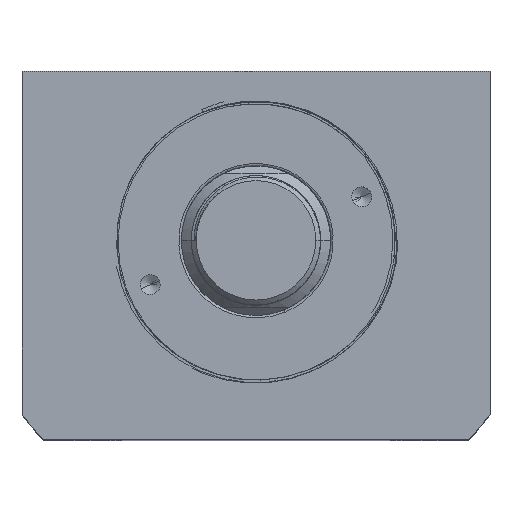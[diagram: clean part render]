
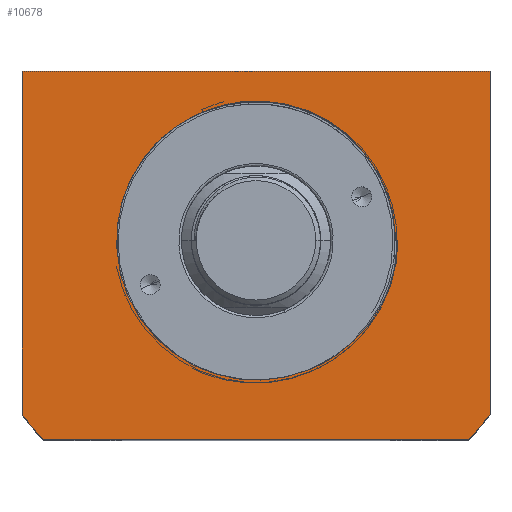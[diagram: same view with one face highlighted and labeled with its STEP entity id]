
A CAD part, top view. The second image highlights one B-rep face of the part: STEP entity #10678.
In plain terms, the highlighted planar face has unit normal (0, 0, 1).
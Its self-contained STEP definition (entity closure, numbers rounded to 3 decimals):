
#123 = ORIENTED_EDGE ( 'NONE', *, *, #14367, .T. ) ;
#443 = CARTESIAN_POINT ( 'NONE',  ( 47., -34.832, 40. ) ) ;
#484 = CARTESIAN_POINT ( 'NONE',  ( 0., 0., 40. ) ) ;
#558 = DIRECTION ( 'NONE',  ( -1., 0., 0. ) ) ;
#619 = CARTESIAN_POINT ( 'NONE',  ( 28., 0., 40. ) ) ;
#680 = CARTESIAN_POINT ( 'NONE',  ( 15.3, -23.593, 40. ) ) ;
#742 = CARTESIAN_POINT ( 'NONE',  ( 18.129, -21.529, 40. ) ) ;
#744 = DIRECTION ( 'NONE',  ( 1., 0., 0. ) ) ;
#1168 = EDGE_CURVE ( 'NONE', #2214, #8452, #2633, .T. ) ;
#1669 = CARTESIAN_POINT ( 'NONE',  ( 0., 0., 40. ) ) ;
#2170 = CARTESIAN_POINT ( 'NONE',  ( 0., 0., 40. ) ) ;
#2189 = CARTESIAN_POINT ( 'NONE',  ( 28.449, -1.419, 40. ) ) ;
#2214 = VERTEX_POINT ( 'NONE', #443 ) ;
#2246 = CARTESIAN_POINT ( 'NONE',  ( 13.459, -24.624, 40. ) ) ;
#2306 = CARTESIAN_POINT ( 'NONE',  ( 24.178, -14.712, 40. ) ) ;
#2556 = FACE_OUTER_BOUND ( 'NONE', #5647, .T. ) ;
#2633 = LINE ( 'NONE', #18129, #11845 ) ;
#2785 = CIRCLE ( 'NONE', #9926, 28. ) ;
#2998 = CARTESIAN_POINT ( 'NONE',  ( -47., -34.832, 40. ) ) ;
#3436 = DIRECTION ( 'NONE',  ( 0., 1., 0. ) ) ;
#3453 = EDGE_CURVE ( 'NONE', #13708, #2214, #10471, .T. ) ;
#3508 = DIRECTION ( 'NONE',  ( 1., 0., 0. ) ) ;
#3767 = CARTESIAN_POINT ( 'NONE',  ( 28.485, -0.71, 40. ) ) ;
#3918 = FACE_BOUND ( 'NONE', #14107, .T. ) ;
#3983 = AXIS2_PLACEMENT_3D ( 'NONE', #484, #16606, #7853 ) ;
#4018 = CARTESIAN_POINT ( 'NONE',  ( 47., 34., 40. ) ) ;
#4074 = CARTESIAN_POINT ( 'NONE',  ( 42.688, -40., 40. ) ) ;
#4600 = DIRECTION ( 'NONE',  ( 1., 0., 0. ) ) ;
#4727 = DIRECTION ( 'NONE',  ( 0., 0., 1. ) ) ;
#4944 = VERTEX_POINT ( 'NONE', #619 ) ;
#4969 = DIRECTION ( 'NONE',  ( 0., 0., -1. ) ) ;
#4989 = CARTESIAN_POINT ( 'NONE',  ( 42.688, -40., 40. ) ) ;
#5155 = VERTEX_POINT ( 'NONE', #15581 ) ;
#5179 = CARTESIAN_POINT ( 'NONE',  ( 28.233, -3.538, 40. ) ) ;
#5243 = CARTESIAN_POINT ( 'NONE',  ( 19.714, -20.129, 40. ) ) ;
#5326 = AXIS2_PLACEMENT_3D ( 'NONE', #1669, #14938, #4600 ) ;
#5629 = CARTESIAN_POINT ( 'NONE',  ( -47., -34.832, 40. ) ) ;
#5647 = EDGE_LOOP ( 'NONE', ( #123, #9781, #8503, #13466, #10049, #15390 ) ) ;
#5878 = VERTEX_POINT ( 'NONE', #2998 ) ;
#5944 = LINE ( 'NONE', #4989, #12377 ) ;
#6688 = CARTESIAN_POINT ( 'NONE',  ( 27.887, -5.628, 40. ) ) ;
#7853 = DIRECTION ( 'NONE',  ( 1., 0., 0. ) ) ;
#8224 = VECTOR ( 'NONE', #14249, 1000. ) ;
#8394 = EDGE_CURVE ( 'NONE', #12260, #16698, #10215, .T. ) ;
#8452 = VERTEX_POINT ( 'NONE', #4018 ) ;
#8503 = ORIENTED_EDGE ( 'NONE', *, *, #10458, .T. ) ;
#8694 = AXIS2_PLACEMENT_3D ( 'NONE', #12194, #4727, #3508 ) ;
#8774 = EDGE_CURVE ( 'NONE', #5155, #5878, #10881, .T. ) ;
#8807 = CARTESIAN_POINT ( 'NONE',  ( -42.688, -40., 40. ) ) ;
#9457 = CIRCLE ( 'NONE', #5326, 58.5 ) ;
#9522 = CARTESIAN_POINT ( 'NONE',  ( 26.163, -10.961, 40. ) ) ;
#9588 = CARTESIAN_POINT ( 'NONE',  ( 18.667, -21.077, 40. ) ) ;
#9648 = CARTESIAN_POINT ( 'NONE',  ( 20.224, -19.631, 40. ) ) ;
#9781 = ORIENTED_EDGE ( 'NONE', *, *, #8774, .T. ) ;
#9926 = AXIS2_PLACEMENT_3D ( 'NONE', #2170, #4969, #12319 ) ;
#9979 = CARTESIAN_POINT ( 'NONE',  ( 0., 0., 40. ) ) ;
#10049 = ORIENTED_EDGE ( 'NONE', *, *, #3453, .T. ) ;
#10215 = B_SPLINE_CURVE_WITH_KNOTS ( 'NONE', 3,
 ( #10951, #3767, #2189, #18347, #5179, #6688, #16994, #18220, #9522, #11139, #2306, #16862, #13923, #9648, #5243, #9588, #742, #12525, #680, #2246, #11080, #15523, #13986, #15463 ),
 .UNSPECIFIED., .F., .F.,
 ( 4, 2, 2, 2, 2, 2, 2, 2, 2, 2, 2, 4 ),
 ( 0., 0.002, 0.004, 0.009, 0.013, 0.017, 0.021, 0.023, 0.026, 0.03, 0.032, 0.034 ),
 .UNSPECIFIED. ) ;
#10458 = EDGE_CURVE ( 'NONE', #5878, #17194, #9457, .T. ) ;
#10471 = CIRCLE ( 'NONE', #8694, 58.5 ) ;
#10515 = EDGE_CURVE ( 'NONE', #16698, #4944, #2785, .T. ) ;
#10678 = ADVANCED_FACE ( 'NONE', ( #3918, #2556 ), #15133, .T. ) ;
#10881 = LINE ( 'NONE', #5629, #17505 ) ;
#10951 = CARTESIAN_POINT ( 'NONE',  ( 28.495, 0., 40. ) ) ;
#11016 = CARTESIAN_POINT ( 'NONE',  ( 10.232, -26.064, 40. ) ) ;
#11080 = CARTESIAN_POINT ( 'NONE',  ( 12.831, -24.945, 40. ) ) ;
#11139 = CARTESIAN_POINT ( 'NONE',  ( 24.898, -13.504, 40. ) ) ;
#11243 = LINE ( 'NONE', #12333, #16490 ) ;
#11845 = VECTOR ( 'NONE', #3436, 1000. ) ;
#11973 = ORIENTED_EDGE ( 'NONE', *, *, #14500, .F. ) ;
#12124 = LINE ( 'NONE', #9979, #8224 ) ;
#12194 = CARTESIAN_POINT ( 'NONE',  ( 0., 0., 40. ) ) ;
#12260 = VERTEX_POINT ( 'NONE', #12942 ) ;
#12319 = DIRECTION ( 'NONE',  ( 1., 0., 0. ) ) ;
#12333 = CARTESIAN_POINT ( 'NONE',  ( -47., 34., 40. ) ) ;
#12377 = VECTOR ( 'NONE', #744, 1000. ) ;
#12525 = CARTESIAN_POINT ( 'NONE',  ( 16.467, -22.819, 40. ) ) ;
#12900 = ORIENTED_EDGE ( 'NONE', *, *, #10515, .T. ) ;
#12942 = CARTESIAN_POINT ( 'NONE',  ( 28.495, 0., 40. ) ) ;
#13466 = ORIENTED_EDGE ( 'NONE', *, *, #13605, .T. ) ;
#13477 = ORIENTED_EDGE ( 'NONE', *, *, #8394, .T. ) ;
#13605 = EDGE_CURVE ( 'NONE', #17194, #13708, #5944, .T. ) ;
#13708 = VERTEX_POINT ( 'NONE', #4074 ) ;
#13923 = CARTESIAN_POINT ( 'NONE',  ( 21.684, -18.094, 40. ) ) ;
#13986 = CARTESIAN_POINT ( 'NONE',  ( 10.89, -25.816, 40. ) ) ;
#14107 = EDGE_LOOP ( 'NONE', ( #11973, #13477, #12900 ) ) ;
#14249 = DIRECTION ( 'NONE',  ( -1., 0., 0. ) ) ;
#14367 = EDGE_CURVE ( 'NONE', #8452, #5155, #11243, .T. ) ;
#14500 = EDGE_CURVE ( 'NONE', #12260, #4944, #12124, .T. ) ;
#14938 = DIRECTION ( 'NONE',  ( 0., 0., 1. ) ) ;
#15133 = PLANE ( 'NONE',  #3983 ) ;
#15390 = ORIENTED_EDGE ( 'NONE', *, *, #1168, .T. ) ;
#15463 = CARTESIAN_POINT ( 'NONE',  ( 10.232, -26.064, 40. ) ) ;
#15523 = CARTESIAN_POINT ( 'NONE',  ( 11.542, -25.544, 40. ) ) ;
#15581 = CARTESIAN_POINT ( 'NONE',  ( -47., 34., 40. ) ) ;
#16490 = VECTOR ( 'NONE', #558, 1000. ) ;
#16606 = DIRECTION ( 'NONE',  ( 0., 0., 1. ) ) ;
#16698 = VERTEX_POINT ( 'NONE', #11016 ) ;
#16862 = CARTESIAN_POINT ( 'NONE',  ( 22.571, -17.007, 40. ) ) ;
#16994 = CARTESIAN_POINT ( 'NONE',  ( 27.555, -6.99, 40. ) ) ;
#17194 = VERTEX_POINT ( 'NONE', #8807 ) ;
#17389 = DIRECTION ( 'NONE',  ( 0., -1., 0. ) ) ;
#17505 = VECTOR ( 'NONE', #17389, 1000. ) ;
#18129 = CARTESIAN_POINT ( 'NONE',  ( 47., 34., 40. ) ) ;
#18220 = CARTESIAN_POINT ( 'NONE',  ( 26.694, -9.657, 40. ) ) ;
#18347 = CARTESIAN_POINT ( 'NONE',  ( 28.323, -2.832, 40. ) ) ;
